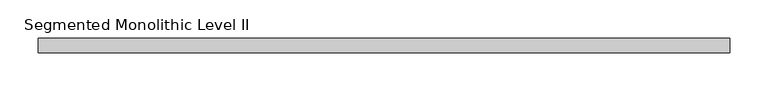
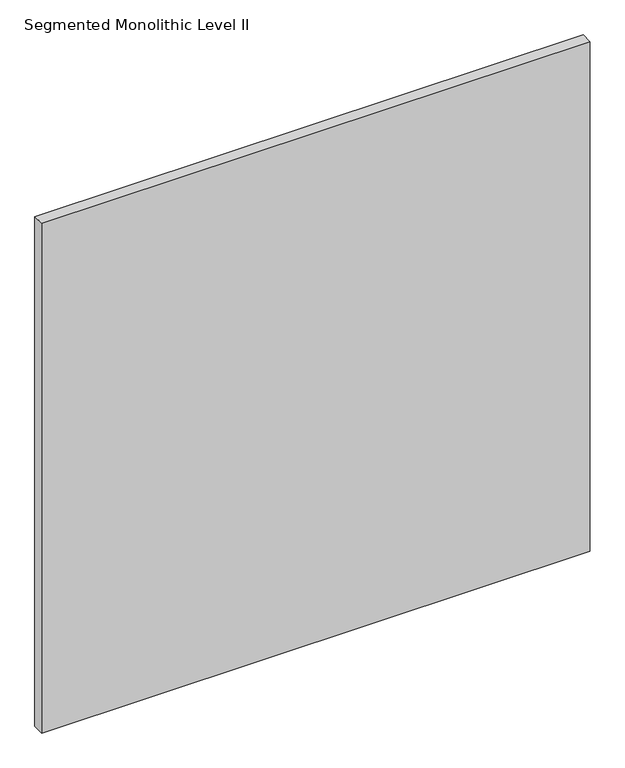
"""IFC4 building model written with IfcOpenShell, lengths in millimetres: proxy geometry, Panel-Fascia-Teknion-Altos-Standard : Segmented Monolithic Level II."""

from ifc_helpers import new_model, si_unit, frame, origin, place, context, project, spatial, polyline, outline, extrude, source, transform, mapped, element, save


def segmented_monolithic_level_ii_062cb124(model_context):
    return source(origin(), model_context, "Body", "SweptSolid", [
        extrude(outline(polyline([(454.025, -9.525), (-454.025, -9.525), (-454.025, 9.525), (454.025, 9.525), (454.025, -9.525)])), frame((0.0, 0.0, 3.175), z_axis=(0.0, 0.0, 1.0), x_axis=(1.0, 0.0, 0.0)), (0.0, 0.0, 1.0), 892.175),
    ])


if __name__ == "__main__":
    model = new_model("IFC4")
    model_context = context("Model", 3, world=origin())
    ifc_project = project(units=[si_unit("LENGTHUNIT", "METRE", prefix="MILLI")], contexts=[model_context])
    site = spatial("IfcSite", under=ifc_project)
    building = spatial("IfcBuilding", under=site)
    placement = place(None, origin())
    segmented_monolithic_level_ii_shape = segmented_monolithic_level_ii_062cb124(model_context)
    element("IfcBuildingElementProxy", 1, Name="Panel-Fascia-Teknion-Altos-Standard : Segmented Monolithic Level II", ObjectType="Panel-Fascia-Teknion-Altos-Standard : Segmented Monolithic Level II", at=placement, inside=building, context=model_context, shape_type="MappedRepresentation", body=[
        mapped(segmented_monolithic_level_ii_shape, transform((0.0, 0.0, 0.0), x_axis=(1.0, 0.0, 0.0), y_axis=(0.0, 1.0, 0.0), z_axis=(0.0, 0.0, 1.0))),
    ])
    save(model, "model.ifc")
